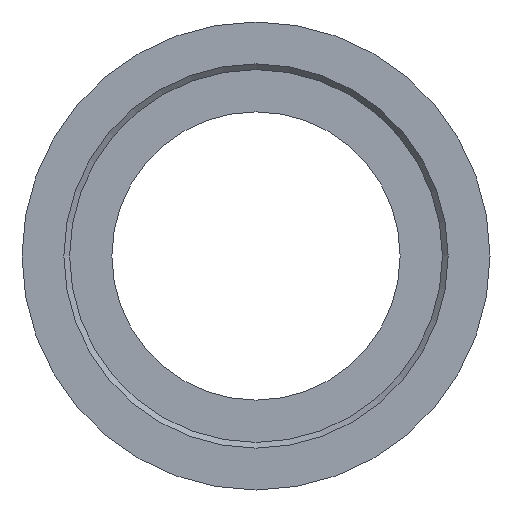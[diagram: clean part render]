
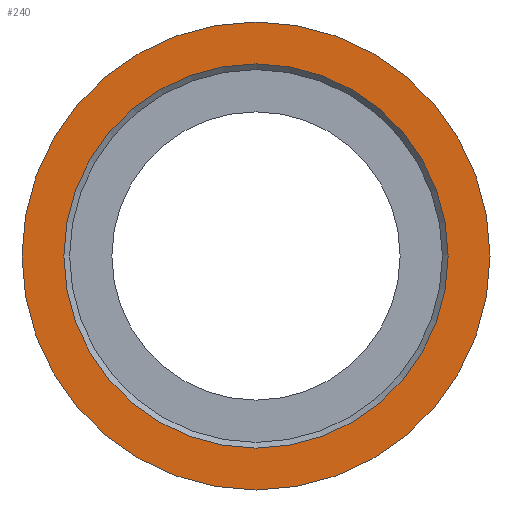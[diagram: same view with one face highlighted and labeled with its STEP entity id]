
A CAD part, front view. The second image highlights one B-rep face of the part: STEP entity #240.
In plain terms, the highlighted planar face has unit normal (0, -1, 0).
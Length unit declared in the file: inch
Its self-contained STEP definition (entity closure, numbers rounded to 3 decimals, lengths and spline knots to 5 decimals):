
#10 = EDGE_CURVE ( 'NONE', #126, #126, #117, .T. ) ;
#14 = EDGE_CURVE ( 'NONE', #191, #191, #214, .T. ) ;
#26 = AXIS2_PLACEMENT_3D ( 'NONE', #340, #248, #303 ) ;
#29 = AXIS2_PLACEMENT_3D ( 'NONE', #276, #285, #269 ) ;
#46 = AXIS2_PLACEMENT_3D ( 'NONE', #330, #273, #360 ) ;
#76 = FACE_BOUND ( 'NONE', #167, .T. ) ;
#117 = CIRCLE ( 'NONE', #26, 0.5 ) ;
#126 = VERTEX_POINT ( 'NONE', #294 ) ;
#167 = EDGE_LOOP ( 'NONE', ( #213 ) ) ;
#187 = FACE_OUTER_BOUND ( 'NONE', #189, .T. ) ;
#189 = EDGE_LOOP ( 'NONE', ( #216 ) ) ;
#191 = VERTEX_POINT ( 'NONE', #344 ) ;
#213 = ORIENTED_EDGE ( 'NONE', *, *, #10, .F. ) ;
#214 = CIRCLE ( 'NONE', #46, 0.609 ) ;
#216 = ORIENTED_EDGE ( 'NONE', *, *, #14, .T. ) ;
#240 = ADVANCED_FACE ( 'NONE', ( #187, #76 ), #265, .T. ) ;
#248 = DIRECTION ( 'NONE',  ( 0., -1., 0. ) ) ;
#265 = PLANE ( 'NONE',  #29 ) ;
#269 = DIRECTION ( 'NONE',  ( 0., 0., -1. ) ) ;
#273 = DIRECTION ( 'NONE',  ( 0., -1., 0. ) ) ;
#276 = CARTESIAN_POINT ( 'NONE',  ( 0.5, 0., 0. ) ) ;
#285 = DIRECTION ( 'NONE',  ( 0., -1., 0. ) ) ;
#294 = CARTESIAN_POINT ( 'NONE',  ( 0., 0., -0.5 ) ) ;
#303 = DIRECTION ( 'NONE',  ( 0., 0., -1. ) ) ;
#330 = CARTESIAN_POINT ( 'NONE',  ( 0., 0., 0. ) ) ;
#340 = CARTESIAN_POINT ( 'NONE',  ( 0., 0., 0. ) ) ;
#344 = CARTESIAN_POINT ( 'NONE',  ( 0., 0., -0.609 ) ) ;
#360 = DIRECTION ( 'NONE',  ( 0., 0., -1. ) ) ;
